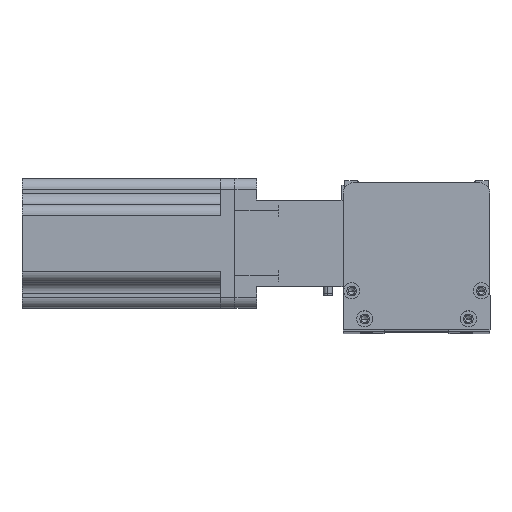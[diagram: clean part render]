
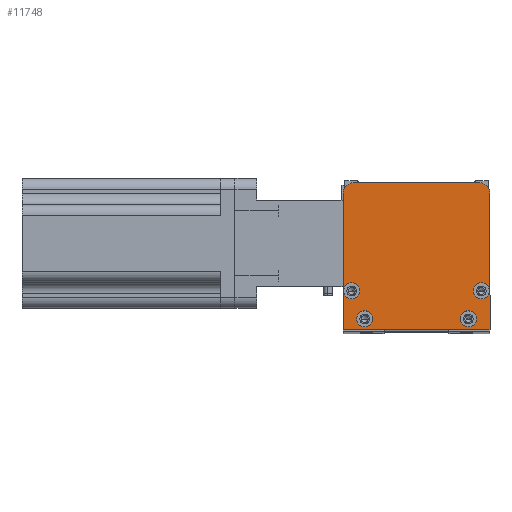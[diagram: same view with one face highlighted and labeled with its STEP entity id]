
A CAD part, top view. The second image highlights one B-rep face of the part: STEP entity #11748.
In plain terms, the highlighted planar face has unit normal (0, 0, 1) as drawn and (0, 0, -1) by its records, which use the part's own axes.
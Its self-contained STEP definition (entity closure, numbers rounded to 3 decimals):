
#47 = DIRECTION ( 'NONE',  ( 0., 0., -1. ) ) ;
#693 = DIRECTION ( 'NONE',  ( -1., 0., 0. ) ) ;
#970 = CARTESIAN_POINT ( 'NONE',  ( 0., 0., 0. ) ) ;
#1451 = CARTESIAN_POINT ( 'NONE',  ( 68., 0., 0. ) ) ;
#1470 = VERTEX_POINT ( 'NONE', #17294 ) ;
#1689 = ORIENTED_EDGE ( 'NONE', *, *, #24968, .F. ) ;
#1736 = CIRCLE ( 'NONE', #3688, 3.75 ) ;
#2182 = LINE ( 'NONE', #16353, #7263 ) ;
#2926 = CARTESIAN_POINT ( 'NONE',  ( 0.25, 18., 0. ) ) ;
#3122 = VERTEX_POINT ( 'NONE', #9127 ) ;
#3127 = ORIENTED_EDGE ( 'NONE', *, *, #27900, .F. ) ;
#3175 = DIRECTION ( 'NONE',  ( 0., 0., 1. ) ) ;
#3688 = AXIS2_PLACEMENT_3D ( 'NONE', #3945, #19389, #6126 ) ;
#3787 = DIRECTION ( 'NONE',  ( 0., 0., -1. ) ) ;
#3820 = DIRECTION ( 'NONE',  ( 0., 0., -1. ) ) ;
#3885 = FACE_BOUND ( 'NONE', #10901, .T. ) ;
#3945 = CARTESIAN_POINT ( 'NONE',  ( 58., 5., 0. ) ) ;
#4126 = VERTEX_POINT ( 'NONE', #17533 ) ;
#4182 = CARTESIAN_POINT ( 'NONE',  ( 10., 5., 0. ) ) ;
#4437 = ORIENTED_EDGE ( 'NONE', *, *, #5278, .F. ) ;
#4577 = FACE_BOUND ( 'NONE', #24701, .T. ) ;
#5123 = DIRECTION ( 'NONE',  ( 0., 0., -1. ) ) ;
#5171 = AXIS2_PLACEMENT_3D ( 'NONE', #18339, #5123, #20573 ) ;
#5278 = EDGE_CURVE ( 'NONE', #7821, #16089, #19179, .T. ) ;
#5425 = DIRECTION ( 'NONE',  ( -1., 0., 0. ) ) ;
#5505 = ORIENTED_EDGE ( 'NONE', *, *, #17650, .F. ) ;
#5823 = DIRECTION ( 'NONE',  ( 1., 0., 0. ) ) ;
#5930 = AXIS2_PLACEMENT_3D ( 'NONE', #9508, #25019, #11706 ) ;
#6126 = DIRECTION ( 'NONE',  ( -1., 0., 0. ) ) ;
#6387 = DIRECTION ( 'NONE',  ( -1., 0., 0. ) ) ;
#7263 = VECTOR ( 'NONE', #5425, 1000. ) ;
#7507 = CIRCLE ( 'NONE', #27385, 3.75 ) ;
#7572 = CARTESIAN_POINT ( 'NONE',  ( 63., 68., 0. ) ) ;
#7821 = VERTEX_POINT ( 'NONE', #21199 ) ;
#7865 = CARTESIAN_POINT ( 'NONE',  ( 58., 5., 0. ) ) ;
#8139 = DIRECTION ( 'NONE',  ( 0., 0., -1. ) ) ;
#8533 = EDGE_CURVE ( 'NONE', #18621, #3122, #25204, .T. ) ;
#8541 = CARTESIAN_POINT ( 'NONE',  ( 0., 0., 0. ) ) ;
#8638 = CIRCLE ( 'NONE', #19806, 3.75 ) ;
#9127 = CARTESIAN_POINT ( 'NONE',  ( 68., 63., 0. ) ) ;
#9216 = CIRCLE ( 'NONE', #5171, 3.75 ) ;
#9227 = EDGE_CURVE ( 'NONE', #1470, #9849, #9216, .T. ) ;
#9342 = VECTOR ( 'NONE', #5823, 1000. ) ;
#9487 = EDGE_CURVE ( 'NONE', #9849, #1470, #7507, .T. ) ;
#9508 = CARTESIAN_POINT ( 'NONE',  ( 5., 63., 0. ) ) ;
#9651 = FACE_BOUND ( 'NONE', #28137, .T. ) ;
#9719 = CIRCLE ( 'NONE', #5930, 5. ) ;
#9849 = VERTEX_POINT ( 'NONE', #2926 ) ;
#10047 = DIRECTION ( 'NONE',  ( -1., 0., 0. ) ) ;
#10352 = EDGE_CURVE ( 'NONE', #7821, #15500, #9719, .T. ) ;
#10901 = EDGE_LOOP ( 'NONE', ( #17715, #15203 ) ) ;
#11592 = CIRCLE ( 'NONE', #21872, 3.75 ) ;
#11706 = DIRECTION ( 'NONE',  ( 1., 0., 0. ) ) ;
#11748 = ADVANCED_FACE ( 'NONE', ( #21490, #9651, #4577, #3885, #26658 ), #20705, .F. ) ;
#12247 = CARTESIAN_POINT ( 'NONE',  ( 54.25, 5., 0. ) ) ;
#12282 = ORIENTED_EDGE ( 'NONE', *, *, #16581, .F. ) ;
#12871 = LINE ( 'NONE', #13356, #24035 ) ;
#13089 = CARTESIAN_POINT ( 'NONE',  ( 63., 63., 0. ) ) ;
#13110 = ORIENTED_EDGE ( 'NONE', *, *, #15677, .F. ) ;
#13356 = CARTESIAN_POINT ( 'NONE',  ( 68., 0., 0. ) ) ;
#13393 = ORIENTED_EDGE ( 'NONE', *, *, #23367, .F. ) ;
#13418 = VERTEX_POINT ( 'NONE', #21421 ) ;
#13433 = ORIENTED_EDGE ( 'NONE', *, *, #23629, .F. ) ;
#13744 = DIRECTION ( 'NONE',  ( 0., 0., -1. ) ) ;
#13851 = CARTESIAN_POINT ( 'NONE',  ( 60.25, 18., 0. ) ) ;
#13876 = EDGE_CURVE ( 'NONE', #4126, #23964, #1736, .T. ) ;
#14923 = CARTESIAN_POINT ( 'NONE',  ( 5., 68., 0. ) ) ;
#14939 = AXIS2_PLACEMENT_3D ( 'NONE', #970, #3175, #18585 ) ;
#15203 = ORIENTED_EDGE ( 'NONE', *, *, #13876, .F. ) ;
#15289 = CARTESIAN_POINT ( 'NONE',  ( 0., 0., 0. ) ) ;
#15330 = DIRECTION ( 'NONE',  ( 1., 0., 0. ) ) ;
#15500 = VERTEX_POINT ( 'NONE', #14923 ) ;
#15677 = EDGE_CURVE ( 'NONE', #13418, #3122, #12871, .T. ) ;
#15851 = AXIS2_PLACEMENT_3D ( 'NONE', #21437, #8139, #23644 ) ;
#16089 = VERTEX_POINT ( 'NONE', #8541 ) ;
#16119 = ORIENTED_EDGE ( 'NONE', *, *, #9227, .F. ) ;
#16130 = ORIENTED_EDGE ( 'NONE', *, *, #10352, .T. ) ;
#16353 = CARTESIAN_POINT ( 'NONE',  ( 68., 68., 0. ) ) ;
#16581 = EDGE_CURVE ( 'NONE', #17378, #25504, #23670, .T. ) ;
#16621 = ORIENTED_EDGE ( 'NONE', *, *, #9487, .F. ) ;
#16939 = CARTESIAN_POINT ( 'NONE',  ( 4., 18., 0. ) ) ;
#16981 = CARTESIAN_POINT ( 'NONE',  ( 10., 5., 0. ) ) ;
#17126 = AXIS2_PLACEMENT_3D ( 'NONE', #13089, #47, #15330 ) ;
#17294 = CARTESIAN_POINT ( 'NONE',  ( 7.75, 18., 0. ) ) ;
#17378 = VERTEX_POINT ( 'NONE', #13851 ) ;
#17533 = CARTESIAN_POINT ( 'NONE',  ( 61.75, 5., 0. ) ) ;
#17551 = DIRECTION ( 'NONE',  ( 0., -1., 0. ) ) ;
#17650 = EDGE_CURVE ( 'NONE', #22031, #18217, #23561, .T. ) ;
#17715 = ORIENTED_EDGE ( 'NONE', *, *, #28490, .F. ) ;
#18217 = VERTEX_POINT ( 'NONE', #19536 ) ;
#18339 = CARTESIAN_POINT ( 'NONE',  ( 4., 18., 0. ) ) ;
#18585 = DIRECTION ( 'NONE',  ( 1., 0., 0. ) ) ;
#18621 = VERTEX_POINT ( 'NONE', #7572 ) ;
#18869 = ORIENTED_EDGE ( 'NONE', *, *, #8533, .T. ) ;
#19179 = LINE ( 'NONE', #15289, #23637 ) ;
#19220 = DIRECTION ( 'NONE',  ( -1., 0., 0. ) ) ;
#19260 = DIRECTION ( 'NONE',  ( -1., 0., 0. ) ) ;
#19389 = DIRECTION ( 'NONE',  ( 0., 0., -1. ) ) ;
#19397 = CARTESIAN_POINT ( 'NONE',  ( 67.75, 18., 0. ) ) ;
#19536 = CARTESIAN_POINT ( 'NONE',  ( 6.25, 5., 0. ) ) ;
#19640 = DIRECTION ( 'NONE',  ( 0., 0., -1. ) ) ;
#19806 = AXIS2_PLACEMENT_3D ( 'NONE', #7865, #23356, #10047 ) ;
#20158 = CARTESIAN_POINT ( 'NONE',  ( 13.75, 5., 0. ) ) ;
#20573 = DIRECTION ( 'NONE',  ( -1., 0., 0. ) ) ;
#20705 = PLANE ( 'NONE',  #14939 ) ;
#21199 = CARTESIAN_POINT ( 'NONE',  ( 0., 63., 0. ) ) ;
#21421 = CARTESIAN_POINT ( 'NONE',  ( 68., 0., 0. ) ) ;
#21437 = CARTESIAN_POINT ( 'NONE',  ( 64., 18., 0. ) ) ;
#21490 = FACE_BOUND ( 'NONE', #27785, .T. ) ;
#21647 = AXIS2_PLACEMENT_3D ( 'NONE', #4182, #19640, #6387 ) ;
#21872 = AXIS2_PLACEMENT_3D ( 'NONE', #27084, #13744, #693 ) ;
#22031 = VERTEX_POINT ( 'NONE', #20158 ) ;
#22209 = EDGE_LOOP ( 'NONE', ( #4437, #16130, #13393, #18869, #13110, #3127 ) ) ;
#23148 = AXIS2_PLACEMENT_3D ( 'NONE', #16981, #3820, #19260 ) ;
#23161 = CIRCLE ( 'NONE', #21647, 3.75 ) ;
#23356 = DIRECTION ( 'NONE',  ( 0., 0., -1. ) ) ;
#23367 = EDGE_CURVE ( 'NONE', #18621, #15500, #2182, .T. ) ;
#23561 = CIRCLE ( 'NONE', #23148, 3.75 ) ;
#23629 = EDGE_CURVE ( 'NONE', #18217, #22031, #23161, .T. ) ;
#23637 = VECTOR ( 'NONE', #17551, 1000. ) ;
#23644 = DIRECTION ( 'NONE',  ( -1., 0., 0. ) ) ;
#23670 = CIRCLE ( 'NONE', #15851, 3.75 ) ;
#23964 = VERTEX_POINT ( 'NONE', #12247 ) ;
#24035 = VECTOR ( 'NONE', #26679, 1000. ) ;
#24701 = EDGE_LOOP ( 'NONE', ( #13433, #5505 ) ) ;
#24968 = EDGE_CURVE ( 'NONE', #25504, #17378, #11592, .T. ) ;
#25019 = DIRECTION ( 'NONE',  ( 0., 0., -1. ) ) ;
#25204 = CIRCLE ( 'NONE', #17126, 5. ) ;
#25504 = VERTEX_POINT ( 'NONE', #19397 ) ;
#26658 = FACE_OUTER_BOUND ( 'NONE', #22209, .T. ) ;
#26679 = DIRECTION ( 'NONE',  ( 0., 1., 0. ) ) ;
#27055 = LINE ( 'NONE', #1451, #9342 ) ;
#27084 = CARTESIAN_POINT ( 'NONE',  ( 64., 18., 0. ) ) ;
#27385 = AXIS2_PLACEMENT_3D ( 'NONE', #16939, #3787, #19220 ) ;
#27785 = EDGE_LOOP ( 'NONE', ( #12282, #1689 ) ) ;
#27900 = EDGE_CURVE ( 'NONE', #16089, #13418, #27055, .T. ) ;
#28137 = EDGE_LOOP ( 'NONE', ( #16621, #16119 ) ) ;
#28490 = EDGE_CURVE ( 'NONE', #23964, #4126, #8638, .T. ) ;
